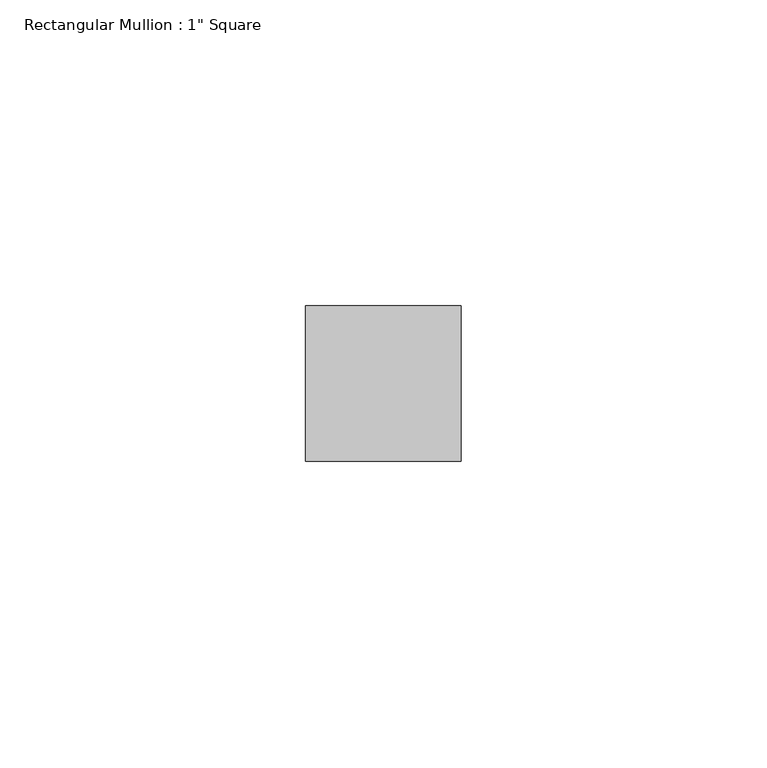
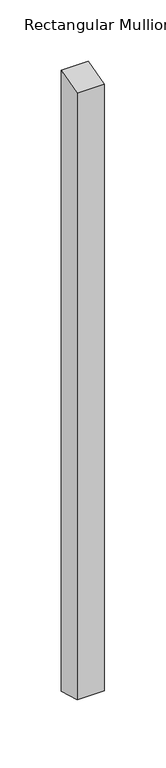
"""IFC4 building model written with IfcOpenShell, lengths in millimetres: member geometry."""

from ifc_helpers import new_model, si_unit, frame, origin, place, context, project, spatial, polyline, outline, extrude, source, transform, mapped, element, save


def member_391bee44(model_context):
    return source(origin(), model_context, "Body", "SweptSolid", [
        extrude(outline(polyline([(-12.7, -3.7084403), (12.7, 3.7084403), (12.7, -612.9412882), (-12.7, -606.2587118), (-12.7, -3.7084403)])), frame((-12.7, 0.0, 0.0), z_axis=(1.0, 0.0, 0.0), x_axis=(0.0, 1.0, 0.0)), (0.0, 0.0, 1.0), 25.4),
    ])


if __name__ == "__main__":
    model = new_model("IFC4")
    model_context = context("Model", 3, world=origin())
    ifc_project = project(units=[si_unit("LENGTHUNIT", "METRE", prefix="MILLI")], contexts=[model_context])
    site = spatial("IfcSite", under=ifc_project)
    building = spatial("IfcBuilding", under=site)
    placement = place(None, origin())
    member_shape = member_391bee44(model_context)
    element("IfcMember", 1, ObjectType="Rectangular Mullion : 1\" Square", at=placement, inside=building, context=model_context, shape_type="MappedRepresentation", body=[
        mapped(member_shape, transform((0.0, 0.0, 0.0), x_axis=(1.0, 0.0, 0.0), y_axis=(0.0, 1.0, 0.0), z_axis=(0.0, 0.0, 1.0))),
    ])
    save(model, "model.ifc")
